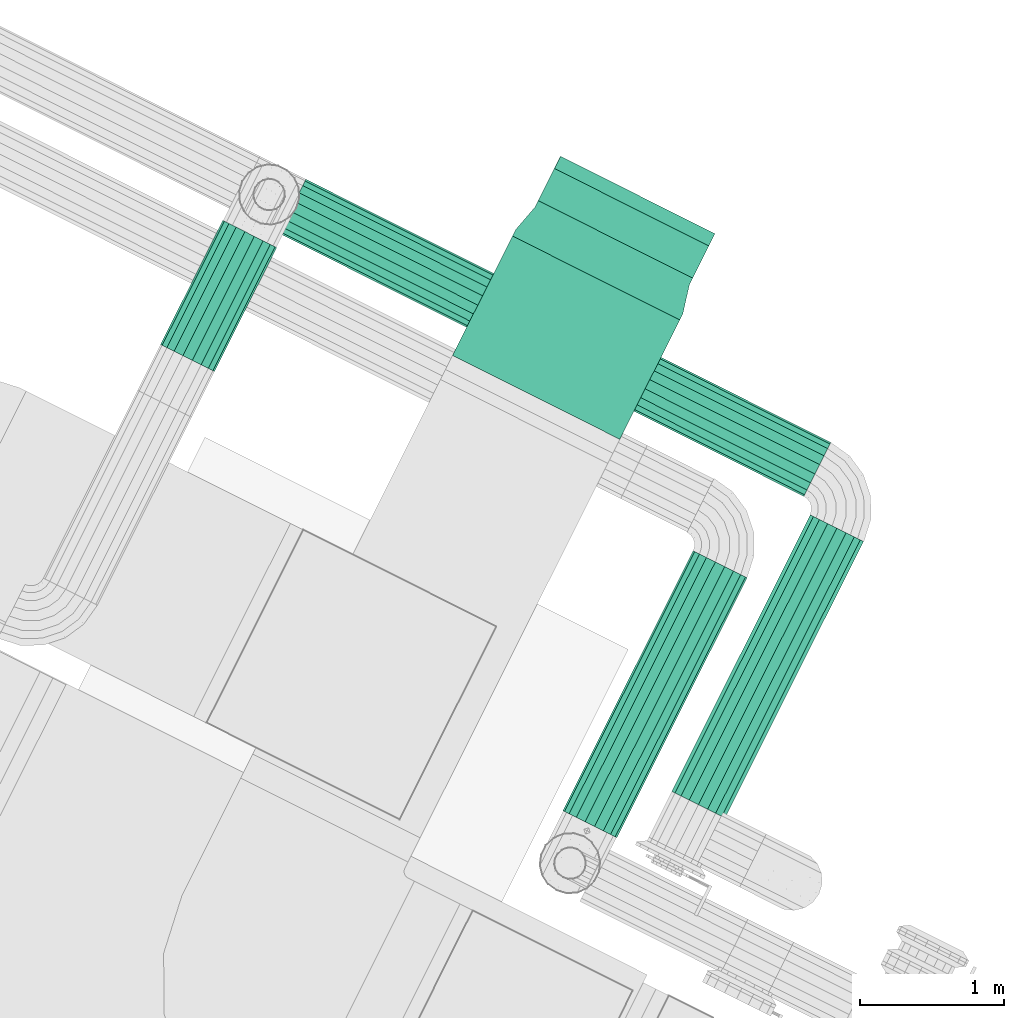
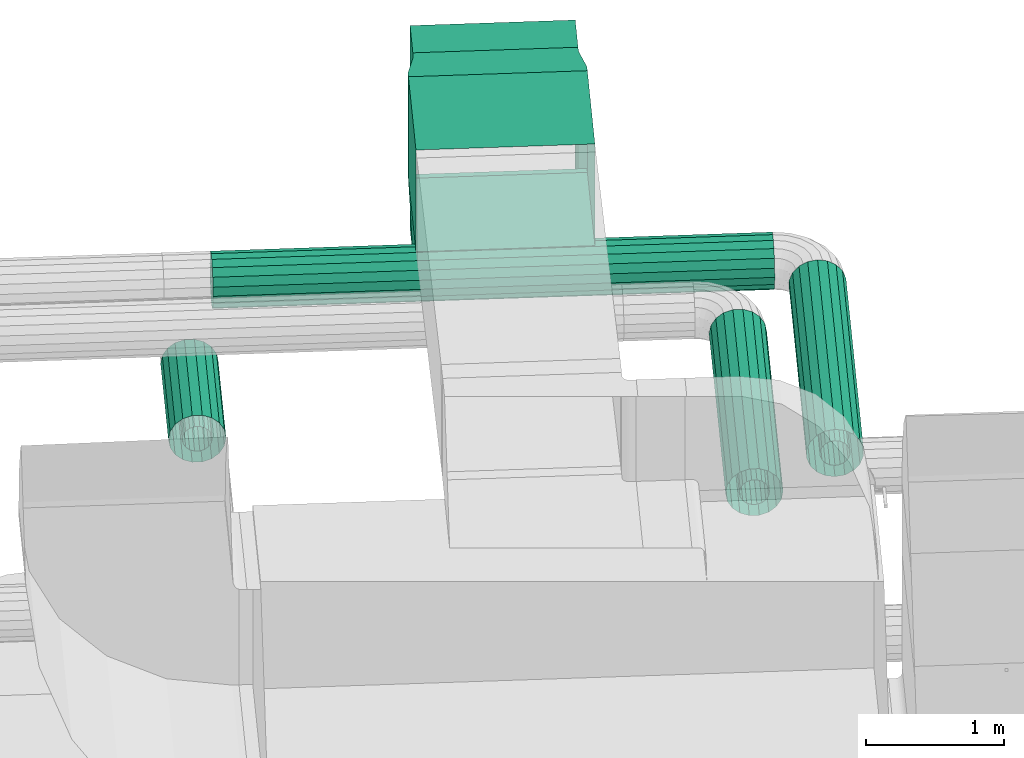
# One storey, part 10 of 152: 6 flow segments, 1 flow fitting, 1 flow terminal.
"""IFC2X3 building model written with IfcOpenShell, lengths in metres."""

from ifc_helpers import new_model, si_unit, derived_unit, direction, frame, origin, place, context, subcontext, project, spatial, face_set, surface_model, source, transform, mapped, material, type_object, type_shapes, element, save


model = new_model("IFC2X3")

# Units and contexts
model_context = context("Model", 3, precision=5.2338327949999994e-05, world=origin(), true_north=direction((0.0, 1.0)))
body_context = subcontext(model_context, "Body", "Model", "MODEL_VIEW")
ifc_project = project(units=[si_unit("LENGTHUNIT", "METRE"), si_unit("AREAUNIT", "SQUARE_METRE"), si_unit("VOLUMEUNIT", "CUBIC_METRE"), si_unit("MASSUNIT", "GRAM", prefix="KILO"), si_unit("PLANEANGLEUNIT", "RADIAN"), derived_unit("THERMALTRANSMITTANCEUNIT", [(si_unit("MASSUNIT", "GRAM", prefix="KILO"), 1), (si_unit("THERMODYNAMICTEMPERATUREUNIT", "KELVIN"), -1), (si_unit("TIMEUNIT", "SECOND"), -3)])], contexts=[model_context])

# Site, building, storey
site_placement = place(None, frame((0.0, 0.0, 0.0), z_axis=(0.0, 0.0, 1.0), x_axis=(0.8939966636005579, -0.4480736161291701, 0.0)))
site = spatial("IfcSite", under=ifc_project, at=site_placement, Name="Default", CompositionType="ELEMENT")
building_placement = place(site_placement, origin())
building = spatial("IfcBuilding", under=site, at=building_placement, CompositionType="ELEMENT")
storey_placement = place(building_placement, frame((0.0, 0.0, 2.7499999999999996)))
storey = spatial("IfcBuildingStorey", under=building, at=storey_placement, Name="1. Obergeschoss", CompositionType="ELEMENT", Elevation=2.7499999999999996)

# Flow segments
ifc_material_1 = material(Name="IfcSurfaceStyle #9317")
distribution_element_type_1 = type_object("IfcDistributionElementType", Name="Stahlrohr nach DIN 2448 250046:Stahlrohr nach DIN 2448 250046", material=ifc_material_1)
shared_shape_1 = source(origin(), body_context, "Body", "SurfaceModel", [
    surface_model("IfcFaceBasedSurfaceModel", [(32.60494487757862, 8.938986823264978, 5.635640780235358), (32.598338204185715, 8.938986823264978, 5.59817247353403), (32.598338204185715, 10.957806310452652, 5.598172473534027), (32.60494487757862, 10.957806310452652, 5.635640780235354), (32.579315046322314, 8.938986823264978, 5.5652233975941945), (32.5793150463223, 10.957806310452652, 5.565223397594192), (32.55016987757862, 8.938986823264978, 5.540767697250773), (32.550169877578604, 10.957806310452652, 5.540767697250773), (32.514418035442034, 8.938986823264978, 5.52775509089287), (32.51441803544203, 10.957806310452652, 5.5277550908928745), (32.4763717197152, 8.938986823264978, 5.527755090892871), (32.4763717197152, 10.957806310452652, 5.527755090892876), (32.44061987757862, 8.938986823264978, 5.540767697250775), (32.44061987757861, 10.957806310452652, 5.54076769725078), (32.41147470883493, 8.938986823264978, 5.565223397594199), (32.41147470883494, 10.957806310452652, 5.565223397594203), (32.39245155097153, 8.938986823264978, 5.598172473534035), (32.39245155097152, 10.957806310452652, 5.598172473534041), (32.38584487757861, 8.938986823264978, 5.635640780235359), (32.38584487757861, 10.957806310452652, 5.635640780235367), (32.39245155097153, 8.938986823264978, 5.673109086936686), (32.39245155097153, 10.957806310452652, 5.673109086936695), (32.41147470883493, 8.938986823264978, 5.706058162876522), (32.41147470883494, 10.957806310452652, 5.706058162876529), (32.44061987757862, 8.938986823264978, 5.730513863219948), (32.44061987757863, 10.957806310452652, 5.730513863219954), (32.4763717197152, 8.938986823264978, 5.74352646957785), (32.47637171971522, 10.957806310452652, 5.743526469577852), (32.514418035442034, 8.938986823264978, 5.743526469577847), (32.514418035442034, 10.957806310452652, 5.743526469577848), (32.550169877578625, 8.938986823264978, 5.730513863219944), (32.550169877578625, 10.957806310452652, 5.730513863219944), (32.57931504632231, 8.938986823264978, 5.706058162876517), (32.57931504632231, 10.957806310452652, 5.706058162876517), (32.59833820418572, 8.938986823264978, 5.673109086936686), (32.598338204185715, 10.957806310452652, 5.673109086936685), (32.704944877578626, 8.938986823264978, 5.635640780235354), (32.69230746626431, 8.938986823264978, 5.563970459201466), (32.692307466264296, 10.957806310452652, 5.563970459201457), (32.70494487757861, 10.957806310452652, 5.63564078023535), (32.655919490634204, 8.938986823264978, 5.50094463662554), (32.6559194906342, 10.957806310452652, 5.500944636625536), (32.600169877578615, 8.938986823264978, 5.454165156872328), (32.600169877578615, 10.957806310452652, 5.454165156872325), (32.531782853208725, 8.938986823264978, 5.429274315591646), (32.5317828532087, 10.957806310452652, 5.4292743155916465), (32.45900690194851, 8.938986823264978, 5.42927431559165), (32.4590069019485, 10.957806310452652, 5.429274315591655), (32.39061987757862, 8.938986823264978, 5.45416515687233), (32.39061987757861, 10.957806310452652, 5.454165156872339), (32.33487026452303, 8.938986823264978, 5.500944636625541), (32.33487026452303, 10.957806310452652, 5.500944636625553), (32.29848228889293, 8.938986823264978, 5.56397045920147), (32.298482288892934, 10.957806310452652, 5.563970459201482), (32.285844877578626, 8.938986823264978, 5.635640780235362), (32.28584487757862, 10.957806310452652, 5.635640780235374), (32.29848228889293, 8.938986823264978, 5.707311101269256), (32.29848228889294, 10.957806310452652, 5.7073111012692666), (32.33487026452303, 8.938986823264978, 5.770336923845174), (32.33487026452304, 10.957806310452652, 5.7703369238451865), (32.39061987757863, 8.938986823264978, 5.817116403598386), (32.39061987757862, 10.957806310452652, 5.817116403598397), (32.45900690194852, 8.938986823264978, 5.842007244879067), (32.45900690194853, 10.957806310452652, 5.842007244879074), (32.531782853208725, 8.938986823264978, 5.842007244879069), (32.53178285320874, 10.957806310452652, 5.84200724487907), (32.60016987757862, 8.938986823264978, 5.817116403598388), (32.60016987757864, 10.957806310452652, 5.8171164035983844), (32.655919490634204, 8.938986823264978, 5.770336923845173), (32.65591949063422, 10.957806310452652, 5.770336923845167), (32.69230746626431, 8.938986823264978, 5.707311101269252), (32.69230746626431, 10.957806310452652, 5.707311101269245)], [face_set([[[0, 1, 2, 3]], [[1, 4, 5, 2]], [[4, 6, 7, 5]], [[6, 8, 9, 7]], [[8, 10, 11, 9]], [[10, 12, 13, 11]], [[12, 14, 15, 13]], [[14, 16, 17, 15]], [[16, 18, 19, 17]], [[18, 20, 21, 19]], [[20, 22, 23, 21]], [[22, 24, 25, 23]], [[24, 26, 27, 25]], [[26, 28, 29, 27]], [[28, 30, 31, 29]], [[30, 32, 33, 31]], [[32, 34, 35, 33]], [[34, 0, 3, 35]], [[36, 37, 38, 39]], [[37, 40, 41, 38]], [[40, 42, 43, 41]], [[42, 44, 45, 43]], [[44, 46, 47, 45]], [[46, 48, 49, 47]], [[48, 50, 51, 49]], [[50, 52, 53, 51]], [[52, 54, 55, 53]], [[54, 56, 57, 55]], [[56, 58, 59, 57]], [[58, 60, 61, 59]], [[60, 62, 63, 61]], [[62, 64, 65, 63]], [[64, 66, 67, 65]], [[66, 68, 69, 67]], [[68, 70, 71, 69]], [[70, 36, 39, 71]]])]),
])
type_shapes(distribution_element_type_1, [shared_shape_1])
flow_segment_1_placement = place(storey_placement, frame((0.0, 0.0, -2.7499999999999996)))
element("IfcFlowSegment", 1, at=flow_segment_1_placement, inside=storey, type_object=distribution_element_type_1, material=ifc_material_1, Name="Stahlrohr nach DIN 2448", ObjectType="Stahlrohr nach DIN 2448", context=body_context, shape_type="MappedRepresentation", body=[
    mapped(shared_shape_1, transform((0.0, 0.0, 0.0), scale=1.0)),
])
ifc_material_2 = material(Name="IfcSurfaceStyle #1741")
distribution_element_type_2 = type_object("IfcDistributionElementType", Name="Stahlrohr nach DIN 2448 250350:Stahlrohr nach DIN 2448 250350", material=ifc_material_2)
shared_shape_2 = source(origin(), body_context, "Body", "SurfaceModel", [
    surface_model("IfcFaceBasedSurfaceModel", [(28.723924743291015, 11.74048690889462, 5.635640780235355), (28.723924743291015, 11.747093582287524, 5.59817247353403), (32.80352236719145, 11.747093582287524, 5.59817247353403), (32.80352236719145, 11.74048690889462, 5.635640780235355), (28.723924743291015, 11.766116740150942, 5.565223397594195), (32.80352236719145, 11.766116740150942, 5.5652233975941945), (28.723924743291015, 11.795261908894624, 5.540767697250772), (32.80352236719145, 11.795261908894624, 5.540767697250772), (28.723924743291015, 11.831013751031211, 5.527755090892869), (32.80352236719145, 11.831013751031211, 5.527755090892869), (28.723924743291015, 11.869060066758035, 5.5277550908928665), (32.80352236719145, 11.869060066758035, 5.5277550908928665), (28.723924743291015, 11.904811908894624, 5.540767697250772), (32.80352236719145, 11.904811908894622, 5.540767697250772), (28.723924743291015, 11.93395707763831, 5.565223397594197), (32.80352236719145, 11.933957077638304, 5.5652233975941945), (28.723924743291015, 11.952980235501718, 5.598172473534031), (32.80352236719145, 11.952980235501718, 5.59817247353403), (28.723924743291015, 11.959586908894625, 5.635640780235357), (32.80352236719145, 11.959586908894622, 5.635640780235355), (28.723924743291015, 11.952980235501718, 5.673109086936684), (32.80352236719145, 11.952980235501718, 5.673109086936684), (28.723924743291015, 11.933957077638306, 5.706058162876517), (32.80352236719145, 11.933957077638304, 5.7060581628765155), (28.723924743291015, 11.904811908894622, 5.73051386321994), (32.80352236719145, 11.904811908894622, 5.73051386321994), (28.723924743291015, 11.869060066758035, 5.743526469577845), (32.80352236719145, 11.869060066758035, 5.743526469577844), (28.723924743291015, 11.831013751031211, 5.7435264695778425), (32.80352236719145, 11.831013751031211, 5.743526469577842), (28.723924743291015, 11.795261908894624, 5.730513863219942), (32.80352236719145, 11.795261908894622, 5.730513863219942), (28.723924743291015, 11.76611674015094, 5.706058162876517), (32.80352236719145, 11.76611674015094, 5.706058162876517), (28.723924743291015, 11.747093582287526, 5.673109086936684), (32.80352236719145, 11.747093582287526, 5.673109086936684), (28.723924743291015, 11.640486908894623, 5.635640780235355), (28.723924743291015, 11.653124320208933, 5.5639704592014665), (32.80352236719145, 11.653124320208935, 5.563970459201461), (32.80352236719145, 11.640486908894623, 5.635640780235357), (28.723924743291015, 11.689512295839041, 5.500944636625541), (32.80352236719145, 11.689512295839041, 5.50094463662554), (28.723924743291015, 11.745261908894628, 5.454165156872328), (32.80352236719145, 11.745261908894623, 5.454165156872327), (28.723924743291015, 11.813648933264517, 5.429274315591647), (32.80352236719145, 11.813648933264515, 5.429274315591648), (28.723924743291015, 11.886424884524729, 5.429274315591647), (32.80352236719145, 11.886424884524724, 5.429274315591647), (28.723924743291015, 11.954811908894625, 5.454165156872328), (32.80352236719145, 11.954811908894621, 5.454165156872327), (28.723924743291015, 12.010561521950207, 5.50094463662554), (32.80352236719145, 12.010561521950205, 5.500944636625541), (28.723924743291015, 12.04694949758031, 5.563970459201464), (32.80352236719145, 12.046949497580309, 5.563970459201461), (28.723924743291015, 12.059586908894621, 5.635640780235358), (32.80352236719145, 12.05958690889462, 5.635640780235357), (28.723924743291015, 12.04694949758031, 5.7073111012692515), (32.80352236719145, 12.046949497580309, 5.70731110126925), (28.723924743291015, 12.010561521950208, 5.770336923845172), (32.80352236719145, 12.010561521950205, 5.770336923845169), (28.723924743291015, 11.95481190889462, 5.817116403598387), (32.80352236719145, 11.95481190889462, 5.8171164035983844), (28.723924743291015, 11.88642488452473, 5.842007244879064), (32.80352236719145, 11.886424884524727, 5.842007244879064), (28.723924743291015, 11.81364893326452, 5.842007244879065), (32.80352236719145, 11.813648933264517, 5.8420072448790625), (28.723924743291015, 11.745261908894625, 5.817116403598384), (32.80352236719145, 11.74526190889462, 5.8171164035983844), (28.723924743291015, 11.689512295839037, 5.770336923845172), (32.80352236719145, 11.689512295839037, 5.770336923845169), (28.723924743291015, 11.653124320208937, 5.70731110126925), (32.80352236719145, 11.653124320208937, 5.707311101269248)], [face_set([[[0, 1, 2, 3]], [[1, 4, 5, 2]], [[4, 6, 7, 5]], [[6, 8, 9, 7]], [[8, 10, 11, 9]], [[10, 12, 13, 11]], [[12, 14, 15, 13]], [[14, 16, 17, 15]], [[16, 18, 19, 17]], [[18, 20, 21, 19]], [[20, 22, 23, 21]], [[22, 24, 25, 23]], [[24, 26, 27, 25]], [[26, 28, 29, 27]], [[28, 30, 31, 29]], [[30, 32, 33, 31]], [[32, 34, 35, 33]], [[34, 0, 3, 35]], [[36, 37, 38, 39]], [[37, 40, 41, 38]], [[40, 42, 43, 41]], [[42, 44, 45, 43]], [[44, 46, 47, 45]], [[46, 48, 49, 47]], [[48, 50, 51, 49]], [[50, 52, 53, 51]], [[52, 54, 55, 53]], [[54, 56, 57, 55]], [[56, 58, 59, 57]], [[58, 60, 61, 59]], [[60, 62, 63, 61]], [[62, 64, 65, 63]], [[64, 66, 67, 65]], [[66, 68, 69, 67]], [[68, 70, 71, 69]], [[70, 36, 39, 71]]])]),
])
type_shapes(distribution_element_type_2, [shared_shape_2])
flow_segment_2_placement = place(storey_placement, frame((0.0, 0.0, -2.7499999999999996)))
element("IfcFlowSegment", 2, at=flow_segment_2_placement, inside=storey, type_object=distribution_element_type_2, material=ifc_material_2, Name="Stahlrohr nach DIN 2448", ObjectType="Stahlrohr nach DIN 2448", context=body_context, shape_type="MappedRepresentation", body=[
    mapped(shared_shape_2, transform((0.0, 0.0, 0.0), scale=1.0)),
])
distribution_element_type_3 = type_object("IfcDistributionElementType", Name="Stahlrohr nach DIN 2448 252266:Stahlrohr nach DIN 2448 252266", material=ifc_material_2)
shared_shape_3 = source(origin(), body_context, "Body", "SurfaceModel", [
    surface_model("IfcFaceBasedSurfaceModel", [(33.108522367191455, 11.545036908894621, 5.745190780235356), (33.07105406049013, 11.545036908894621, 5.738584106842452), (33.07105406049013, 9.39776352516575, 5.738584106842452), (33.10852236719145, 9.39776352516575, 5.745190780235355), (33.038104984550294, 11.545036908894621, 5.719560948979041), (33.038104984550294, 9.39776352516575, 5.719560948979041), (33.01364928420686, 11.545036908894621, 5.690415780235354), (33.01364928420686, 9.39776352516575, 5.690415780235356), (33.00063667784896, 11.545036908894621, 5.654663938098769), (33.00063667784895, 9.39776352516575, 5.654663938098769), (33.000636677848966, 11.545036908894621, 5.616617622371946), (33.00063667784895, 9.39776352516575, 5.616617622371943), (33.01364928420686, 11.545036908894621, 5.580865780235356), (33.013649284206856, 9.39776352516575, 5.580865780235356), (33.038104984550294, 11.545036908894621, 5.551720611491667), (33.038104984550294, 9.39776352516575, 5.551720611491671), (33.07105406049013, 11.545036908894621, 5.532697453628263), (33.07105406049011, 9.39776352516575, 5.532697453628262), (33.108522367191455, 11.545036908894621, 5.526090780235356), (33.10852236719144, 9.39776352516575, 5.5260907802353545), (33.14599067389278, 11.545036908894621, 5.532697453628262), (33.14599067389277, 9.39776352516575, 5.5326974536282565), (33.17893974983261, 11.545036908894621, 5.551720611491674), (33.1789397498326, 9.39776352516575, 5.551720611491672), (33.20339545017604, 11.545036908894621, 5.58086578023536), (33.20339545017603, 9.39776352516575, 5.580865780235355), (33.21640805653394, 11.545036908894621, 5.616617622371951), (33.216408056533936, 9.39776352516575, 5.616617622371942), (33.21640805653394, 11.545036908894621, 5.65466393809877), (33.21640805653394, 9.39776352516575, 5.654663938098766), (33.20339545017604, 11.545036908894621, 5.690415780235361), (33.20339545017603, 9.39776352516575, 5.690415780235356), (33.178939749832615, 11.545036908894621, 5.719560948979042), (33.17893974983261, 9.39776352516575, 5.719560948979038), (33.145990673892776, 11.545036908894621, 5.738584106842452), (33.14599067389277, 9.39776352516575, 5.738584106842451), (33.108522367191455, 11.545036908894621, 5.845190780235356), (33.03685204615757, 11.545036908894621, 5.832553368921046), (33.03685204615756, 9.39776352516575, 5.832553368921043), (33.108522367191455, 9.39776352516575, 5.845190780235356), (32.97382622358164, 11.545036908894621, 5.796165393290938), (32.97382622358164, 9.39776352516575, 5.796165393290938), (32.92704674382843, 11.545036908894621, 5.74041578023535), (32.92704674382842, 9.39776352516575, 5.740415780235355), (32.90215590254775, 11.545036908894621, 5.6720287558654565), (32.90215590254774, 9.39776352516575, 5.672028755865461), (32.90215590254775, 11.545036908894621, 5.59925280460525), (32.90215590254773, 9.39776352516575, 5.599252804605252), (32.92704674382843, 11.545036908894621, 5.530865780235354), (32.92704674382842, 9.39776352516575, 5.530865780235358), (32.97382622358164, 11.545036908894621, 5.475116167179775), (32.973826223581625, 9.39776352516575, 5.475116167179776), (33.03685204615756, 11.545036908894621, 5.438728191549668), (33.03685204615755, 9.39776352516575, 5.438728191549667), (33.108522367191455, 11.545036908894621, 5.426090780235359), (33.10852236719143, 9.39776352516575, 5.426090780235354), (33.18019268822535, 11.545036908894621, 5.438728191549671), (33.18019268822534, 9.39776352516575, 5.438728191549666), (33.24321851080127, 11.545036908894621, 5.475116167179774), (33.243218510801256, 9.39776352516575, 5.4751161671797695), (33.289997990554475, 11.545036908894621, 5.530865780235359), (33.28999799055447, 9.39776352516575, 5.530865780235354), (33.31488883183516, 11.545036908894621, 5.599252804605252), (33.314888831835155, 9.39776352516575, 5.599252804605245), (33.31488883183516, 11.545036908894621, 5.672028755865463), (33.31488883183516, 9.39776352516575, 5.6720287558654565), (33.28999799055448, 11.545036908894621, 5.7404157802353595), (33.289997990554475, 9.39776352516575, 5.740415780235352), (33.24321851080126, 11.545036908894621, 5.796165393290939), (33.24321851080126, 9.39776352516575, 5.796165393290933), (33.18019268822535, 11.545036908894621, 5.832553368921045), (33.18019268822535, 9.39776352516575, 5.832553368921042)], [face_set([[[0, 1, 2, 3]], [[1, 4, 5, 2]], [[4, 6, 7, 5]], [[6, 8, 9, 7]], [[8, 10, 11, 9]], [[10, 12, 13, 11]], [[12, 14, 15, 13]], [[14, 16, 17, 15]], [[16, 18, 19, 17]], [[18, 20, 21, 19]], [[20, 22, 23, 21]], [[22, 24, 25, 23]], [[24, 26, 27, 25]], [[26, 28, 29, 27]], [[28, 30, 31, 29]], [[30, 32, 33, 31]], [[32, 34, 35, 33]], [[34, 0, 3, 35]], [[36, 37, 38, 39]], [[37, 40, 41, 38]], [[40, 42, 43, 41]], [[42, 44, 45, 43]], [[44, 46, 47, 45]], [[46, 48, 49, 47]], [[48, 50, 51, 49]], [[50, 52, 53, 51]], [[52, 54, 55, 53]], [[54, 56, 57, 55]], [[56, 58, 59, 57]], [[58, 60, 61, 59]], [[60, 62, 63, 61]], [[62, 64, 65, 63]], [[64, 66, 67, 65]], [[66, 68, 69, 67]], [[68, 70, 71, 69]], [[70, 36, 39, 71]]])]),
])
type_shapes(distribution_element_type_3, [shared_shape_3])
flow_segment_3_placement = place(storey_placement, frame((0.0, 0.0, -2.7499999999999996)))
element("IfcFlowSegment", 3, at=flow_segment_3_placement, inside=storey, type_object=distribution_element_type_3, material=ifc_material_2, Name="Stahlrohr nach DIN 2448", ObjectType="Stahlrohr nach DIN 2448", context=body_context, shape_type="MappedRepresentation", body=[
    mapped(shared_shape_3, transform((0.0, 0.0, 0.0), scale=1.0)),
])
ifc_material_3 = material(Name="IfcSurfaceStyle #271184")
distribution_element_type_4 = type_object("IfcDistributionElementType", Name="Luftleitungsteil 275122:Luftleitungsteil 275122", material=ifc_material_3)
shared_shape_4 = source(origin(), body_context, "Body", "SurfaceModel", [
    surface_model("IfcFaceBasedSurfaceModel", [(30.23407436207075, 12.994999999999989, 5.223631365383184), (30.23407436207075, 12.649999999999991, 5.223631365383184), (30.23407436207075, 12.649999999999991, 7.023631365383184), (30.23407436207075, 12.994999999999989, 7.023631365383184), (31.434074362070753, 12.649999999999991, 7.023631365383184), (31.434074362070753, 12.994999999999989, 7.023631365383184), (31.434074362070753, 12.649999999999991, 5.223631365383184), (31.434074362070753, 12.994999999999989, 5.223631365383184)], [face_set([[[0, 1, 2, 3]], [[3, 2, 4, 5]], [[5, 4, 6, 7]], [[7, 6, 1, 0]]])]),
])
type_shapes(distribution_element_type_4, [shared_shape_4])
flow_segment_4_placement = place(storey_placement, frame((0.0, 0.0, -2.7499999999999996)))
element("IfcFlowSegment", 4, at=flow_segment_4_placement, inside=storey, type_object=distribution_element_type_4, material=ifc_material_3, Name="Luftleitungsteil", ObjectType="Luftleitungsteil", context=body_context, shape_type="MappedRepresentation", body=[
    mapped(shared_shape_4, transform((0.0, 0.0, 0.0), scale=1.0)),
])

# Flow terminal
ifc_material_4 = material(Name="IfcSurfaceStyle #271082")
distribution_element_type_5 = type_object("IfcDistributionElementType", Name="Wetterschutzgitter 275189:Wetterschutzgitter 275189", material=ifc_material_4)
shared_shape_5 = source(origin(), body_context, "Body", "SurfaceModel", [
    surface_model("IfcFaceBasedSurfaceModel", [(31.433574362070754, 12.89999999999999, 5.224131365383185), (31.433574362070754, 12.994999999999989, 5.224131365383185), (31.433574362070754, 12.994999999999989, 7.023131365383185), (31.433574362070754, 12.899999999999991, 7.023131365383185), (30.234574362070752, 12.994999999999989, 7.023131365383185), (30.234574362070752, 12.899999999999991, 7.023131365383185), (30.234574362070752, 12.994999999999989, 5.224131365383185), (30.234574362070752, 12.899999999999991, 5.224131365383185)], [face_set([[[0, 1, 2, 3]], [[3, 2, 4, 5]], [[5, 4, 6, 7]], [[7, 6, 1, 0]]])]),
])
type_shapes(distribution_element_type_5, [shared_shape_5])
flow_terminal_placement = place(storey_placement, frame((0.0, 0.0, -2.7499999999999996)))
element("IfcFlowTerminal", 5, at=flow_terminal_placement, inside=storey, type_object=distribution_element_type_5, material=ifc_material_4, Name="Wetterschutzgitter", ObjectType="Wetterschutzgitter", context=body_context, shape_type="MappedRepresentation", body=[
    mapped(shared_shape_5, transform((0.0, 0.0, 0.0), scale=1.0)),
])

# Flow fitting
distribution_element_type_6 = type_object("IfcDistributionElementType", Name="Übergang asymmetrisch 277154:Übergang asymmetrisch 277154", material=ifc_material_3)
shared_shape_6 = source(origin(), body_context, "Body", "SurfaceModel", [
    surface_model("IfcFaceBasedSurfaceModel", [(31.434074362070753, 12.649999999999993, 5.223631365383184), (31.434074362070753, 12.59999999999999, 5.223631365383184), (30.234074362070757, 12.59999999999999, 5.223631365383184), (30.23407436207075, 12.649999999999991, 5.223631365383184), (30.234074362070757, 12.59999999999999, 7.023631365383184), (30.23407436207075, 12.649999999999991, 7.023631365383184), (31.434074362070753, 12.59999999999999, 7.023631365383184), (31.434074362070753, 12.649999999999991, 7.023631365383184), (31.48407436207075, 12.39999999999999, 6.123631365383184), (31.48407436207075, 12.34999999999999, 6.123631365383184), (30.184074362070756, 12.34999999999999, 6.123631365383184), (30.184074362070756, 12.39999999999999, 6.123631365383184), (30.184074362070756, 12.34999999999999, 7.023631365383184), (30.184074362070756, 12.39999999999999, 7.023631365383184), (31.48407436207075, 12.34999999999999, 7.023631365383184), (31.48407436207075, 12.39999999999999, 7.023631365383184)], [face_set([[[0, 1, 2, 3]], [[3, 2, 4, 5]], [[5, 4, 6, 7]], [[7, 6, 1, 0]], [[8, 9, 10, 11]], [[11, 10, 12, 13]], [[13, 12, 14, 15]], [[15, 14, 9, 8]], [[4, 13, 15, 6]], [[11, 2, 1, 8]], [[1, 6, 15]], [[1, 15, 8]], [[2, 4, 13]], [[2, 13, 11]]])]),
])
type_shapes(distribution_element_type_6, [shared_shape_6])
flow_fitting_placement = place(storey_placement, frame((0.0, 0.0, -2.7499999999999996)))
element("IfcFlowFitting", 6, at=flow_fitting_placement, inside=storey, type_object=distribution_element_type_6, material=ifc_material_3, Name="Übergang asymmetrisch", ObjectType="Übergang asymmetrisch", context=body_context, shape_type="MappedRepresentation", body=[
    mapped(shared_shape_6, transform((0.0, 0.0, 0.0), scale=1.0)),
])

# Flow segments
distribution_element_type_7 = type_object("IfcDistributionElementType", Name="Luftleitung 277283:Luftleitung 277283", material=ifc_material_3)
shared_shape_7 = source(origin(), body_context, "Body", "SurfaceModel", [
    surface_model("IfcFaceBasedSurfaceModel", [(31.48407436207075, 12.34999999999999, 6.123631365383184), (31.48407436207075, 11.421944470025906, 6.123631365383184), (30.184074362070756, 11.421944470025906, 6.123631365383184), (30.184074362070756, 12.34999999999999, 6.123631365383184), (30.184074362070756, 11.421944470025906, 7.023631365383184), (30.184074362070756, 12.34999999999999, 7.023631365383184), (31.48407436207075, 11.421944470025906, 7.023631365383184), (31.48407436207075, 12.34999999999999, 7.023631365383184)], [face_set([[[0, 1, 2, 3]], [[3, 2, 4, 5]], [[5, 4, 6, 7]], [[7, 6, 1, 0]]])]),
])
type_shapes(distribution_element_type_7, [shared_shape_7])
flow_segment_5_placement = place(storey_placement, frame((0.0, 0.0, -2.7499999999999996)))
element("IfcFlowSegment", 7, at=flow_segment_5_placement, inside=storey, type_object=distribution_element_type_7, material=ifc_material_3, Name="Luftleitung", ObjectType="Luftleitung", context=body_context, shape_type="MappedRepresentation", body=[
    mapped(shared_shape_7, transform((0.0, 0.0, 0.0), scale=1.0)),
])
distribution_element_type_8 = type_object("IfcDistributionElementType", Name="Stahlrohr nach DIN 2448 349589:Stahlrohr nach DIN 2448 349589", material=ifc_material_2)
shared_shape_8 = source(origin(), body_context, "Body", "SurfaceModel", [
    surface_model("IfcFaceBasedSurfaceModel", [(28.436374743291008, 10.581208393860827, 5.122997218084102), (28.442981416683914, 10.581208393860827, 5.160465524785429), (28.442981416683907, 11.545036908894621, 5.160465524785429), (28.436374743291, 11.545036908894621, 5.122997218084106), (28.462004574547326, 10.581208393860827, 5.19341460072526), (28.462004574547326, 11.545036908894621, 5.193414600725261), (28.49114974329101, 10.581208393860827, 5.217870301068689), (28.491149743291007, 11.545036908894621, 5.21787030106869), (28.5269015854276, 10.581208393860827, 5.230882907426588), (28.5269015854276, 11.545036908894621, 5.230882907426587), (28.564947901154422, 10.581208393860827, 5.230882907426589), (28.564947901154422, 11.545036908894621, 5.230882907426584), (28.600699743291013, 10.581208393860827, 5.217870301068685), (28.60069974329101, 11.545036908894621, 5.2178703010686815), (28.629844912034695, 10.581208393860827, 5.193414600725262), (28.62984491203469, 11.545036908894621, 5.193414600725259), (28.64886806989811, 10.581208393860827, 5.160465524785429), (28.648868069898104, 11.545036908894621, 5.160465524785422), (28.655474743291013, 10.581208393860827, 5.122997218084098), (28.655474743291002, 11.545036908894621, 5.122997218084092), (28.64886806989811, 10.581208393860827, 5.085528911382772), (28.648868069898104, 11.545036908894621, 5.085528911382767), (28.629844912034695, 10.581208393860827, 5.052579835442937), (28.62984491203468, 11.545036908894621, 5.052579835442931), (28.60069974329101, 10.581208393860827, 5.028124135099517), (28.600699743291, 11.545036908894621, 5.028124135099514), (28.564947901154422, 10.581208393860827, 5.015111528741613), (28.564947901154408, 11.545036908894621, 5.015111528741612), (28.526901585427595, 10.581208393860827, 5.015111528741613), (28.526901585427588, 11.545036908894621, 5.015111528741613), (28.491149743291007, 10.581208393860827, 5.028124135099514), (28.491149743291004, 11.545036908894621, 5.0281241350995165), (28.462004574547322, 10.581208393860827, 5.052579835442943), (28.46200457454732, 11.545036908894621, 5.052579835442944), (28.44298141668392, 10.581208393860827, 5.085528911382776), (28.442981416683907, 11.545036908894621, 5.085528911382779), (28.33637474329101, 10.581208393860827, 5.1229972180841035), (28.34901215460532, 10.581208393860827, 5.194667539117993), (28.349012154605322, 11.545036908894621, 5.1946675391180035), (28.336374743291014, 11.545036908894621, 5.12299721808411), (28.385400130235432, 10.581208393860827, 5.257693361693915), (28.385400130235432, 11.545036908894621, 5.257693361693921), (28.441149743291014, 10.581208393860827, 5.30447284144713), (28.44114974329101, 11.545036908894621, 5.304472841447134), (28.509536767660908, 10.581208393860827, 5.329363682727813), (28.50953676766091, 11.545036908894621, 5.329363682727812), (28.582312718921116, 10.581208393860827, 5.3293636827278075), (28.58231271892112, 11.545036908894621, 5.329363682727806), (28.65069974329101, 10.581208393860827, 5.30447284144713), (28.650699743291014, 11.545036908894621, 5.304472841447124), (28.706449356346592, 10.581208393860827, 5.257693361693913), (28.706449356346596, 11.545036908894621, 5.257693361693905), (28.742837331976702, 10.581208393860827, 5.194667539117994), (28.7428373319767, 11.545036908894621, 5.194667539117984), (28.75547474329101, 10.581208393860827, 5.122997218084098), (28.755474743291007, 11.545036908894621, 5.122997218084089), (28.742837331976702, 10.581208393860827, 5.0513268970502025), (28.742837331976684, 11.545036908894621, 5.051326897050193), (28.706449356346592, 10.581208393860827, 4.988301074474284), (28.70644935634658, 11.545036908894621, 4.9883010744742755), (28.65069974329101, 10.581208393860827, 4.941521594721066), (28.650699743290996, 11.545036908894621, 4.9415215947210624), (28.582312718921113, 10.581208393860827, 4.916630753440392), (28.5823127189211, 11.545036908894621, 4.916630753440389), (28.509536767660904, 10.581208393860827, 4.916630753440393), (28.509536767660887, 11.545036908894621, 4.9166307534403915), (28.44114974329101, 10.581208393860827, 4.94152159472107), (28.44114974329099, 11.545036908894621, 4.941521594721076), (28.385400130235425, 10.581208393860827, 4.988301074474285), (28.385400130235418, 11.545036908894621, 4.98830107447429), (28.34901215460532, 10.581208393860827, 5.051326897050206), (28.349012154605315, 11.545036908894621, 5.051326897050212)], [face_set([[[0, 1, 2, 3]], [[1, 4, 5, 2]], [[4, 6, 7, 5]], [[6, 8, 9, 7]], [[8, 10, 11, 9]], [[10, 12, 13, 11]], [[12, 14, 15, 13]], [[14, 16, 17, 15]], [[16, 18, 19, 17]], [[18, 20, 21, 19]], [[20, 22, 23, 21]], [[22, 24, 25, 23]], [[24, 26, 27, 25]], [[26, 28, 29, 27]], [[28, 30, 31, 29]], [[30, 32, 33, 31]], [[32, 34, 35, 33]], [[34, 0, 3, 35]], [[36, 37, 38, 39]], [[37, 40, 41, 38]], [[40, 42, 43, 41]], [[42, 44, 45, 43]], [[44, 46, 47, 45]], [[46, 48, 49, 47]], [[48, 50, 51, 49]], [[50, 52, 53, 51]], [[52, 54, 55, 53]], [[54, 56, 57, 55]], [[56, 58, 59, 57]], [[58, 60, 61, 59]], [[60, 62, 63, 61]], [[62, 64, 65, 63]], [[64, 66, 67, 65]], [[66, 68, 69, 67]], [[68, 70, 71, 69]], [[70, 36, 39, 71]]])]),
])
type_shapes(distribution_element_type_8, [shared_shape_8])
flow_segment_6_placement = place(storey_placement, frame((0.0, 0.0, -2.7499999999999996)))
element("IfcFlowSegment", 8, at=flow_segment_6_placement, inside=storey, type_object=distribution_element_type_8, material=ifc_material_2, Name="Stahlrohr nach DIN 2448", ObjectType="Stahlrohr nach DIN 2448", context=body_context, shape_type="MappedRepresentation", body=[
    mapped(shared_shape_8, transform((0.0, 0.0, 0.0), scale=1.0)),
])

save(model, "model.ifc")
